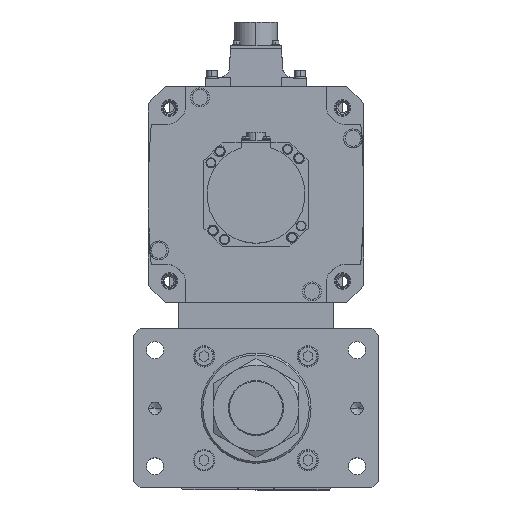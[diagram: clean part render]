
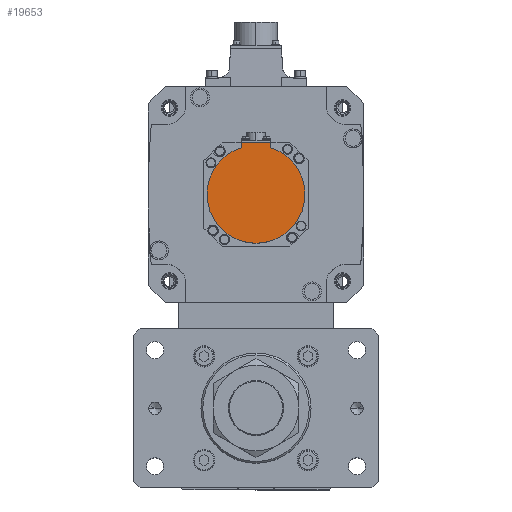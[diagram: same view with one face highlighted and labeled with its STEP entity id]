
A CAD part, top view. The second image highlights one B-rep face of the part: STEP entity #19653.
In plain terms, the highlighted planar face has unit normal (0, 0, 1) as drawn and (0, 0, -1) by its records, which use the part's own axes.
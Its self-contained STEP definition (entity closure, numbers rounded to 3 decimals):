
#211 = ORIENTED_EDGE ( 'NONE', *, *, #37918, .F. ) ;
#310 = VERTEX_POINT ( 'NONE', #17260 ) ;
#405 = AXIS2_PLACEMENT_3D ( 'NONE', #2907, #11154, #51351 ) ;
#1349 = AXIS2_PLACEMENT_3D ( 'NONE', #42118, #2022, #18483 ) ;
#2022 = DIRECTION ( 'NONE',  ( 0., 0., 1. ) ) ;
#2055 = AXIS2_PLACEMENT_3D ( 'NONE', #28679, #16524, #13192 ) ;
#2156 = VECTOR ( 'NONE', #11922, 1000. ) ;
#2307 = DIRECTION ( 'NONE',  ( 1., 0., 0. ) ) ;
#2907 = CARTESIAN_POINT ( 'NONE',  ( 0., 0., -138.5 ) ) ;
#5858 = EDGE_LOOP ( 'NONE', ( #28375, #211, #25704, #34551, #40531, #43952 ) ) ;
#6423 = PLANE ( 'NONE',  #1349 ) ;
#8084 = CARTESIAN_POINT ( 'NONE',  ( -12., -40.329, -138.5 ) ) ;
#8200 = CIRCLE ( 'NONE', #2055, 40. ) ;
#9672 = CARTESIAN_POINT ( 'NONE',  ( -12., -38.158, -138.5 ) ) ;
#9685 = EDGE_CURVE ( 'NONE', #45034, #30636, #47002, .T. ) ;
#10531 = VERTEX_POINT ( 'NONE', #20130 ) ;
#11154 = DIRECTION ( 'NONE',  ( 0., 0., 1. ) ) ;
#11501 = CARTESIAN_POINT ( 'NONE',  ( 12., -38.158, -138.5 ) ) ;
#11922 = DIRECTION ( 'NONE',  ( 0., 1., 0. ) ) ;
#12053 = DIRECTION ( 'NONE',  ( -1., 0., 0. ) ) ;
#12298 = CARTESIAN_POINT ( 'NONE',  ( 40., 0., -138.5 ) ) ;
#12748 = CARTESIAN_POINT ( 'NONE',  ( 0., -42.5, -138.5 ) ) ;
#13166 = VERTEX_POINT ( 'NONE', #12298 ) ;
#13192 = DIRECTION ( 'NONE',  ( 1., 0., 0. ) ) ;
#13704 = DIRECTION ( 'NONE',  ( 0., 0., 1. ) ) ;
#16524 = DIRECTION ( 'NONE',  ( 0., 0., 1. ) ) ;
#17260 = CARTESIAN_POINT ( 'NONE',  ( -40., 0., -138.5 ) ) ;
#18104 = VERTEX_POINT ( 'NONE', #11501 ) ;
#18483 = DIRECTION ( 'NONE',  ( 1., 0., 0. ) ) ;
#19653 = ADVANCED_FACE ( 'NONE', ( #44789 ), #6423, .F. ) ;
#20130 = CARTESIAN_POINT ( 'NONE',  ( 12., -42.5, -138.5 ) ) ;
#20149 = EDGE_CURVE ( 'NONE', #18104, #13166, #30285, .T. ) ;
#21085 = EDGE_CURVE ( 'NONE', #13166, #310, #43445, .T. ) ;
#25704 = ORIENTED_EDGE ( 'NONE', *, *, #21085, .F. ) ;
#26085 = EDGE_CURVE ( 'NONE', #10531, #18104, #28589, .T. ) ;
#27202 = CARTESIAN_POINT ( 'NONE',  ( 12., -1.249, -138.5 ) ) ;
#27730 = EDGE_CURVE ( 'NONE', #10531, #45034, #46717, .T. ) ;
#28375 = ORIENTED_EDGE ( 'NONE', *, *, #9685, .T. ) ;
#28589 = LINE ( 'NONE', #27202, #29860 ) ;
#28679 = CARTESIAN_POINT ( 'NONE',  ( 0., 0., -138.5 ) ) ;
#29649 = CARTESIAN_POINT ( 'NONE',  ( -12., -42.5, -138.5 ) ) ;
#29860 = VECTOR ( 'NONE', #42709, 1000. ) ;
#30285 = CIRCLE ( 'NONE', #46836, 40. ) ;
#30636 = VERTEX_POINT ( 'NONE', #9672 ) ;
#34551 = ORIENTED_EDGE ( 'NONE', *, *, #20149, .F. ) ;
#37827 = CARTESIAN_POINT ( 'NONE',  ( 0., 0., -138.5 ) ) ;
#37918 = EDGE_CURVE ( 'NONE', #310, #30636, #8200, .T. ) ;
#40531 = ORIENTED_EDGE ( 'NONE', *, *, #26085, .F. ) ;
#42118 = CARTESIAN_POINT ( 'NONE',  ( 0., -1.249, -138.5 ) ) ;
#42709 = DIRECTION ( 'NONE',  ( 0., 1., 0. ) ) ;
#43445 = CIRCLE ( 'NONE', #405, 40. ) ;
#43952 = ORIENTED_EDGE ( 'NONE', *, *, #27730, .T. ) ;
#44789 = FACE_OUTER_BOUND ( 'NONE', #5858, .T. ) ;
#45034 = VERTEX_POINT ( 'NONE', #29649 ) ;
#46717 = LINE ( 'NONE', #12748, #51074 ) ;
#46836 = AXIS2_PLACEMENT_3D ( 'NONE', #37827, #13704, #2307 ) ;
#47002 = LINE ( 'NONE', #8084, #2156 ) ;
#51074 = VECTOR ( 'NONE', #12053, 1000. ) ;
#51351 = DIRECTION ( 'NONE',  ( 1., 0., 0. ) ) ;
